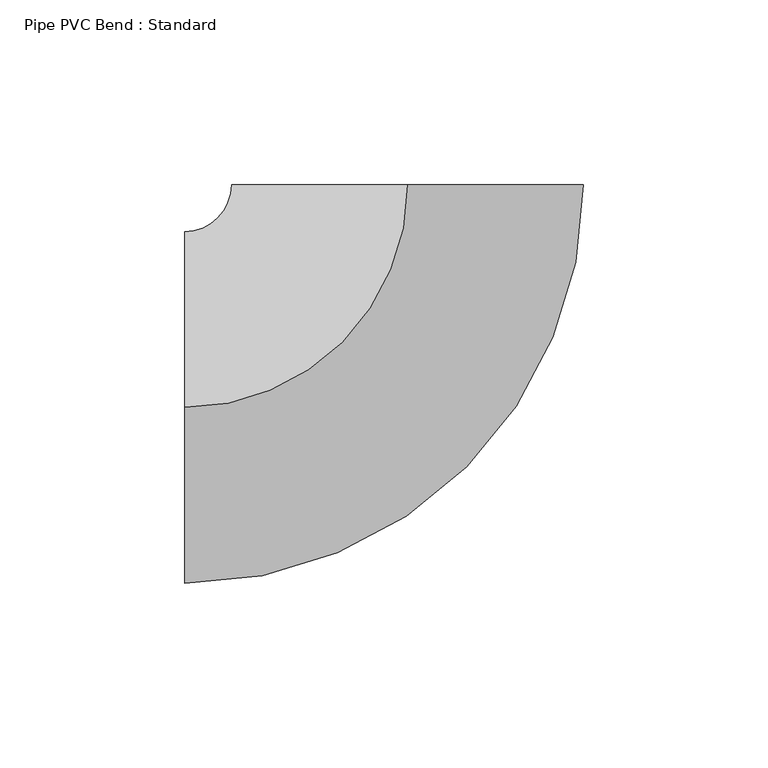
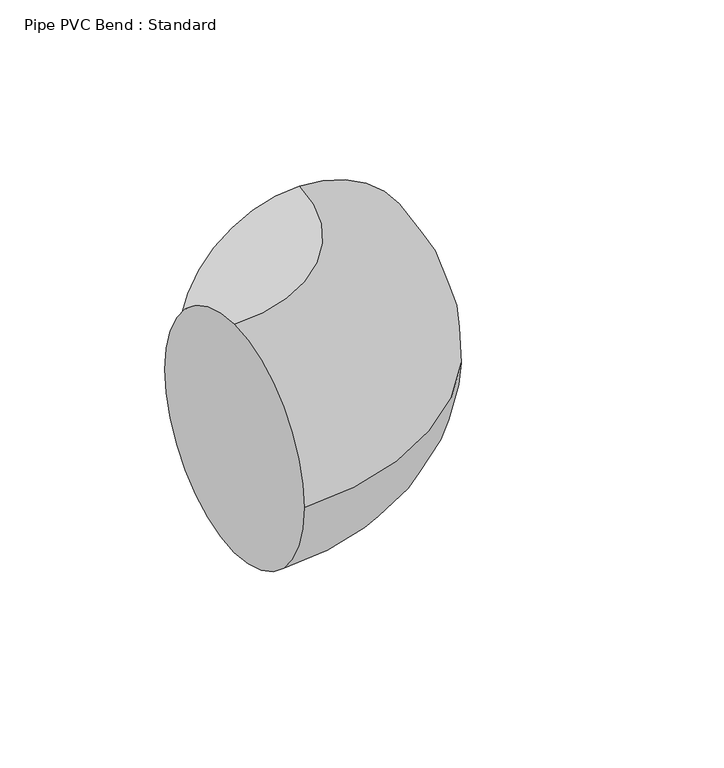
"""IFC4 building model written with IfcOpenShell, lengths in millimetres: pipe fitting geometry, Pipe PVC Bend : Standard."""

from ifc_helpers import new_model, si_unit, point, frame, origin, place, context, project, spatial, circle_curve, ellipse_curve, trimmed, source, transform, mapped, element, save
from ifc_brep_helpers import plane_surface, revolved_surface, advanced_brep


def pipe_pvc_bend_standard_97cc9b6b(model_context):
    return source(origin(), model_context, "Body", "AdvancedBrep", [
        advanced_brep(
        [(-60.3184554, 0.0, 47.625), (-60.3184554, 47.625, 0.0), (-60.3184554, 0.0, -47.625), (-60.3184554, -47.625, 0.0), (0.0065443, 60.318455, 47.625), (47.631544, 60.3132879, 0.0), (0.0065443, 60.318455, -47.625), (-47.6184555, 60.3236221, 0.0)],
        [
            (0, 1, circle_curve(frame((-60.3184554, 0.0, 0.0), z_axis=(-1.0, 0.0, 0.0), x_axis=(0.0, 1.0, 0.0)), 47.625)),
            (1, 2, circle_curve(frame((-60.3184554, 0.0, 0.0), z_axis=(-1.0, 0.0, 0.0), x_axis=(0.0, 1.0, 0.0)), 47.625)),
            (2, 3, circle_curve(frame((-60.3184554, 0.0, 0.0), z_axis=(-1.0, 0.0, 0.0), x_axis=(0.0, 1.0, 0.0)), 47.625)),
            (3, 0, circle_curve(frame((-60.3184554, 0.0, 0.0), z_axis=(-1.0, 0.0, 0.0), x_axis=(0.0, 1.0, 0.0)), 47.625)),
            (4, 5, circle_curve(frame((0.0065443, 60.318455, 0.0), z_axis=(0.00010849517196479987, 0.9999999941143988, 0.0), x_axis=(-0.9999999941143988, 0.00010849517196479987, 0.0)), 47.625)),
            (5, 6, circle_curve(frame((0.0065443, 60.318455, 0.0), z_axis=(0.00010849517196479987, 0.9999999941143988, 0.0), x_axis=(-0.9999999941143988, 0.00010849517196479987, 0.0)), 47.625)),
            (6, 7, circle_curve(frame((0.0065443, 60.318455, 0.0), z_axis=(0.00010849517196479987, 0.9999999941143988, 0.0), x_axis=(-0.9999999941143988, 0.00010849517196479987, 0.0)), 47.625)),
            (7, 4, circle_curve(frame((0.0065443, 60.318455, 0.0), z_axis=(0.00010849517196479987, 0.9999999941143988, 0.0), x_axis=(-0.9999999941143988, 0.00010849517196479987, 0.0)), 47.625)),
            (7, 1, circle_curve(frame((-60.3184554, 60.325, 0.0), z_axis=(0.0, 0.0, -1.0), x_axis=(0.0, -1.0, 0.0)), 12.7)),
            (0, 4, circle_curve(frame((-60.3184554, 60.325, 47.625), z_axis=(0.0, 0.0, 1.0), x_axis=(0.0, -1.0, 0.0)), 60.325)),
            (6, 2, circle_curve(frame((-60.3184554, 60.325, -47.625), z_axis=(0.0, 0.0, -1.0), x_axis=(0.0, -1.0, 0.0)), 60.325)),
            (5, 3, circle_curve(frame((-60.3184554, 60.325, 0.0), z_axis=(0.0, 0.0, -1.0), x_axis=(0.0, -1.0, 0.0)), 107.95)),
        ],
        [
            plane_surface(frame((-60.3184554, 0.0, 0.0), z_axis=(-1.0, 0.0, 0.0), x_axis=(0.0, 0.0, 1.0))),
            plane_surface(frame((0.0065443, 60.318455, 0.0), z_axis=(0.00010849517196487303, 0.9999999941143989, 0.0), x_axis=(0.0, 0.0, 1.0))),
            revolved_surface(trimmed(ellipse_curve(frame((-60.3184554, 0.0, 0.0), z_axis=(-1.0, 0.0, 0.0), x_axis=(0.0, 1.0, 0.0)), 47.625, 47.625), [point((-60.3184554, 0.0, 47.625))], [point((-60.3184554, 47.625, 0.0))], True, "CARTESIAN"), (-60.3184554, 60.325, 0.0), (0.0, 0.0, 1.0)),
            revolved_surface(trimmed(ellipse_curve(frame((-60.3184554, 0.0, 0.0), z_axis=(-1.0, 0.0, 0.0), x_axis=(0.0, 1.0, 0.0)), 47.625, 47.625), [point((-60.3184554, 47.625, 0.0))], [point((-60.3184554, 0.0, -47.625))], True, "CARTESIAN"), (-60.3184554, 60.325, 0.0), (0.0, 0.0, 1.0)),
            revolved_surface(trimmed(ellipse_curve(frame((-60.3184554, 0.0, 0.0), z_axis=(-1.0, 0.0, 0.0), x_axis=(0.0, 1.0, 0.0)), 47.625, 47.625), [point((-60.3184554, 0.0, -47.625))], [point((-60.3184554, -47.625, 0.0))], True, "CARTESIAN"), (-60.3184554, 60.325, 0.0), (0.0, 0.0, 1.0)),
            revolved_surface(trimmed(ellipse_curve(frame((-60.3184554, 0.0, 0.0), z_axis=(-1.0, 0.0, 0.0), x_axis=(0.0, 1.0, 0.0)), 47.625, 47.625), [point((-60.3184554, -47.625, 0.0))], [point((-60.3184554, 0.0, 47.625))], True, "CARTESIAN"), (-60.3184554, 60.325, 0.0), (0.0, 0.0, 1.0)),
        ],
        [
            (0, [[1, 2, 3, 4]]),
            (1, [[5, 6, 7, 8]]),
            (2, [[9, -1, 10, -8]]),
            (3, [[11, -2, -9, -7]]),
            (4, [[12, -3, -11, -6]]),
            (5, [[-10, -4, -12, -5]]),
        ],
    ),
        advanced_brep(
        [(-60.3184554, 0.0, 47.625), (-60.3184554, 47.625, 0.0), (-60.3184554, 0.0, -47.625), (-60.3184554, -47.625, 0.0), (0.0065443, 60.318455, 47.625), (47.631544, 60.3132879, 0.0), (0.0065443, 60.318455, -47.625), (-47.6184555, 60.3236221, 0.0)],
        [
            (0, 1, circle_curve(frame((-60.3184554, 0.0, 0.0), z_axis=(-1.0, 0.0, 0.0), x_axis=(0.0, 1.0, 0.0)), 47.625)),
            (1, 2, circle_curve(frame((-60.3184554, 0.0, 0.0), z_axis=(-1.0, 0.0, 0.0), x_axis=(0.0, 1.0, 0.0)), 47.625)),
            (2, 3, circle_curve(frame((-60.3184554, 0.0, 0.0), z_axis=(-1.0, 0.0, 0.0), x_axis=(0.0, 1.0, 0.0)), 47.625)),
            (3, 0, circle_curve(frame((-60.3184554, 0.0, 0.0), z_axis=(-1.0, 0.0, 0.0), x_axis=(0.0, 1.0, 0.0)), 47.625)),
            (4, 5, circle_curve(frame((0.0065443, 60.318455, 0.0), z_axis=(0.00010849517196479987, 0.9999999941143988, 0.0), x_axis=(-0.9999999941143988, 0.00010849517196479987, 0.0)), 47.625)),
            (5, 6, circle_curve(frame((0.0065443, 60.318455, 0.0), z_axis=(0.00010849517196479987, 0.9999999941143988, 0.0), x_axis=(-0.9999999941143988, 0.00010849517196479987, 0.0)), 47.625)),
            (6, 7, circle_curve(frame((0.0065443, 60.318455, 0.0), z_axis=(0.00010849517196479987, 0.9999999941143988, 0.0), x_axis=(-0.9999999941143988, 0.00010849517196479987, 0.0)), 47.625)),
            (7, 4, circle_curve(frame((0.0065443, 60.318455, 0.0), z_axis=(0.00010849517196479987, 0.9999999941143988, 0.0), x_axis=(-0.9999999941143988, 0.00010849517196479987, 0.0)), 47.625)),
            (7, 1, circle_curve(frame((-60.3184554, 60.325, 0.0), z_axis=(0.0, 0.0, -1.0), x_axis=(0.0, -1.0, 0.0)), 12.7)),
            (0, 4, circle_curve(frame((-60.3184554, 60.325, 47.625), z_axis=(0.0, 0.0, 1.0), x_axis=(0.0, -1.0, 0.0)), 60.325)),
            (6, 2, circle_curve(frame((-60.3184554, 60.325, -47.625), z_axis=(0.0, 0.0, -1.0), x_axis=(0.0, -1.0, 0.0)), 60.325)),
            (5, 3, circle_curve(frame((-60.3184554, 60.325, 0.0), z_axis=(0.0, 0.0, -1.0), x_axis=(0.0, -1.0, 0.0)), 107.95)),
        ],
        [
            plane_surface(frame((-60.3184554, 0.0, 0.0), z_axis=(-1.0, 0.0, 0.0), x_axis=(0.0, 0.0, 1.0))),
            plane_surface(frame((0.0065443, 60.318455, 0.0), z_axis=(0.00010849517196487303, 0.9999999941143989, 0.0), x_axis=(0.0, 0.0, 1.0))),
            revolved_surface(trimmed(ellipse_curve(frame((-60.3184554, 0.0, 0.0), z_axis=(-1.0, 0.0, 0.0), x_axis=(0.0, 1.0, 0.0)), 47.625, 47.625), [point((-60.3184554, 0.0, 47.625))], [point((-60.3184554, 47.625, 0.0))], True, "CARTESIAN"), (-60.3184554, 60.325, 0.0), (0.0, 0.0, 1.0)),
            revolved_surface(trimmed(ellipse_curve(frame((-60.3184554, 0.0, 0.0), z_axis=(-1.0, 0.0, 0.0), x_axis=(0.0, 1.0, 0.0)), 47.625, 47.625), [point((-60.3184554, 47.625, 0.0))], [point((-60.3184554, 0.0, -47.625))], True, "CARTESIAN"), (-60.3184554, 60.325, 0.0), (0.0, 0.0, 1.0)),
            revolved_surface(trimmed(ellipse_curve(frame((-60.3184554, 0.0, 0.0), z_axis=(-1.0, 0.0, 0.0), x_axis=(0.0, 1.0, 0.0)), 47.625, 47.625), [point((-60.3184554, 0.0, -47.625))], [point((-60.3184554, -47.625, 0.0))], True, "CARTESIAN"), (-60.3184554, 60.325, 0.0), (0.0, 0.0, 1.0)),
            revolved_surface(trimmed(ellipse_curve(frame((-60.3184554, 0.0, 0.0), z_axis=(-1.0, 0.0, 0.0), x_axis=(0.0, 1.0, 0.0)), 47.625, 47.625), [point((-60.3184554, -47.625, 0.0))], [point((-60.3184554, 0.0, 47.625))], True, "CARTESIAN"), (-60.3184554, 60.325, 0.0), (0.0, 0.0, 1.0)),
        ],
        [
            (0, [[1, 2, 3, 4]]),
            (1, [[5, 6, 7, 8]]),
            (2, [[9, -1, 10, -8]]),
            (3, [[11, -2, -9, -7]]),
            (4, [[12, -3, -11, -6]]),
            (5, [[-10, -4, -12, -5]]),
        ],
    ),
    ])


if __name__ == "__main__":
    model = new_model("IFC4")
    model_context = context("Model", 3, world=origin())
    ifc_project = project(units=[si_unit("LENGTHUNIT", "METRE", prefix="MILLI")], contexts=[model_context])
    site = spatial("IfcSite", under=ifc_project)
    building = spatial("IfcBuilding", under=site)
    placement = place(None, origin())
    pipe_pvc_bend_standard_shape = pipe_pvc_bend_standard_97cc9b6b(model_context)
    element("IfcPipeFitting", 1, ObjectType="Pipe PVC Bend : Standard", at=placement, inside=building, context=model_context, shape_type="MappedRepresentation", body=[
        mapped(pipe_pvc_bend_standard_shape, transform((0.0, 0.0, 0.0), x_axis=(1.0, 0.0, 0.0), y_axis=(0.0, 1.0, 0.0), z_axis=(0.0, 0.0, 1.0))),
    ])
    save(model, "model.ifc")
